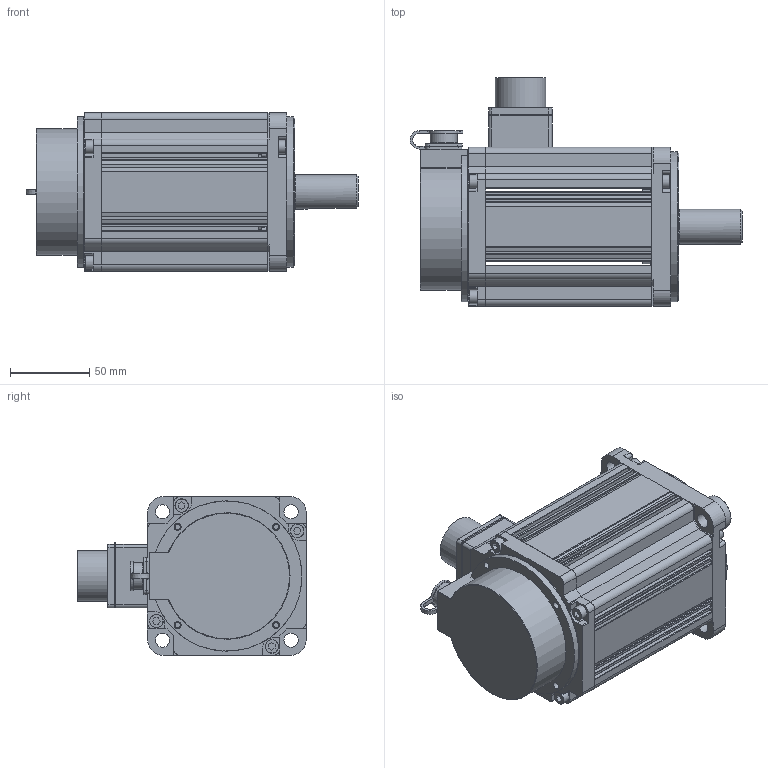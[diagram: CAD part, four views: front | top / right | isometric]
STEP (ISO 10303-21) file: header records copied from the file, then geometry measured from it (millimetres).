
FILE_DESCRIPTION (( 'STEP AP203' ), '1' );
FILE_NAME ('MS6S-100CS30B1-21P5 民用.STEP', '2020-07-15T02:29:18', ( '微软用户' ), ( '微软中国' ), 'SwSTEP 2.0', 'SolidWorks 2016', '' );
FILE_SCHEMA (( 'CONFIG_CONTROL_DESIGN' ));
Length unit declared in the file: millimetre
Products named in the file (1): MS6S-100CS30B1-21P5 鏍蚚
Bounding box: 209.9 x 144.3 x 100.3 mm (x, y, z)
Surface area: 121771.4 mm2 (no closed solid volume)
Topology: 0 solids, 28 shells, 690 faces, 2281 edges, 1620 vertices
Faces by surface type: plane 345, cylinder 243, torus 47, cone 29, bspline 26
Full cylindrical faces by diameter (mm): 3 x6, 3.2 x4, 3.3 x4, 3.5 x4, 4.5 x4, 5 x1, 8.5 x8, 9 x4, 15.2 x1, 17 x1, 22 x1, 25 x1, 28 x1, 32 x1, 46.7 x1, 47 x1, 49.825 x1, 95 x2
Entity records: 26399 total; most frequent: CARTESIAN_POINT 7023, DIRECTION 3929, ORIENTED_EDGE 3687, EDGE_CURVE 2184, VERTEX_POINT 1595, AXIS2_PLACEMENT_3D 1371, LINE 1187, VECTOR 1187
